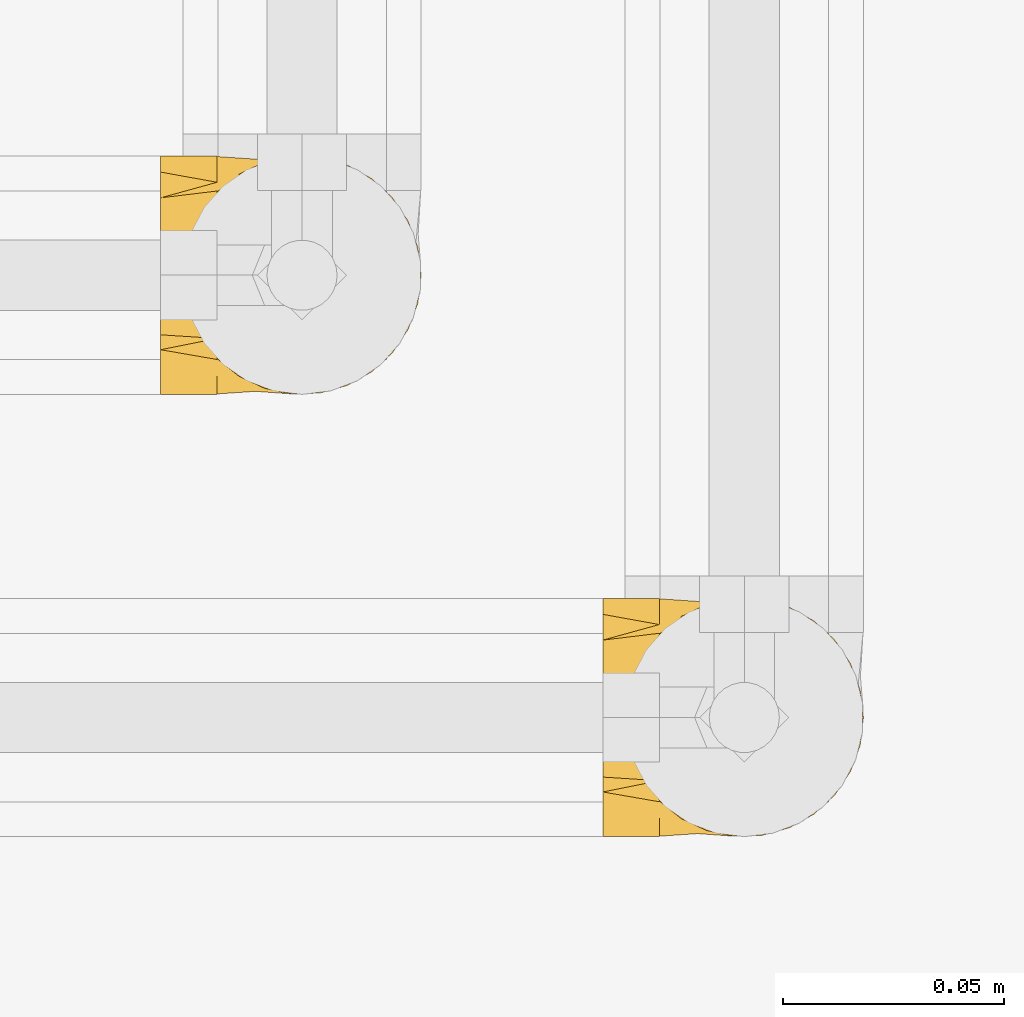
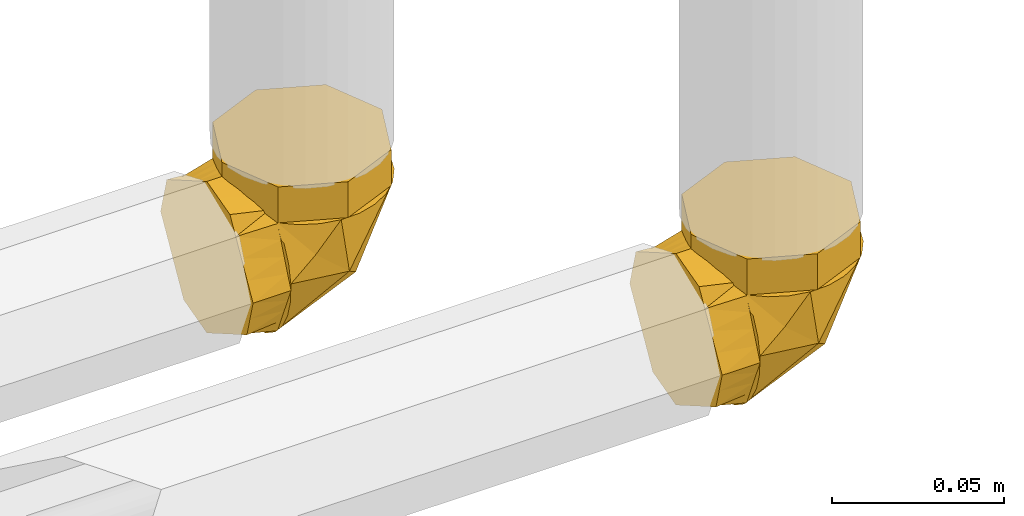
# One storey, part 348 of 652: 2 coverings.
"""IFC2X3 building model written with IfcOpenShell, lengths in millimetres."""

from ifc_helpers import new_model, entity, si_unit, converted_unit, direction, frame, origin, place, context, subcontext, project, spatial, face_set, surface_model, material, type_object, element, save


model = new_model("IFC2X3")

# Units and contexts
model_context = context("Model", 3, precision=0.01, world=frame((0.0, 0.0, 308426.39999999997)), true_north=direction((6.123233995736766e-17, 1.0)))
plan_context = context("Plan", 3, precision=0.01, world=frame((0.0, 0.0, 308426.39999999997)), true_north=direction((6.123233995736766e-17, 1.0)))
body_context = subcontext(model_context, "Body", "Model", "MODEL_VIEW")
ifc_project = project(units=[si_unit("LENGTHUNIT", "METRE", prefix="MILLI"), si_unit("AREAUNIT", "SQUARE_METRE"), si_unit("VOLUMEUNIT", "CUBIC_METRE"), converted_unit("PLANEANGLEUNIT", "DEGREE", entity("IfcPlaneAngleMeasure", 0.017453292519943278), si_unit("PLANEANGLEUNIT", "RADIAN"), dimensions=[0, 0, 0, 0, 0, 0, 0])], contexts=[model_context, plan_context])

# Site, building, storey
site_placement = place(None, origin())
site = spatial("IfcSite", under=ifc_project, at=site_placement, Name="Default", CompositionType="ELEMENT")
building_placement = place(site_placement, origin())
building = spatial("IfcBuilding", under=site, at=building_placement, CompositionType="ELEMENT")
storey_placement = place(building_placement, frame((0.0, 0.0, 1730.6999999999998)))
storey = spatial("IfcBuildingStorey", under=building, at=storey_placement, Name="EG_Produktion_FFB", CompositionType="ELEMENT", Elevation=1730.6999999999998)

# Coverings
ifc_material = material(Name="Dämmung - Armaflex-Schlauch")
covering_type = type_object("IfcCoveringType", Name="Rohrdämmung außen:Armaflex-Schlauch", PredefinedType="INSULATION")
covering_1_placement = place(storey_placement, frame((52268.01624999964, 31973.503785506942, 2671.4672277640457)))
element("IfcCovering", 1, at=covering_1_placement, inside=storey, type_object=covering_type, material=ifc_material, Name="Rohrdämmung außen:Armaflex-Schlauch", ObjectType="Rohrdämmung außen:Armaflex-Schlauch", PredefinedType="INSULATION", context=body_context, shape_type="SurfaceModel", body=[
    surface_model("IfcFaceBasedSurfaceModel", [(12.766249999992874, 9.65642195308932, 47.750272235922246), (17.724287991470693, 5.678961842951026, 47.750272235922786), (23.47627931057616, 2.973980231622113, 47.750272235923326), (29.70195853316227, 1.6920879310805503, 47.75027223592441), (36.054685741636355, 1.9046594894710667, 47.75027223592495), (42.1807471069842, 3.5998591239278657, 47.75027223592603), (47.7390493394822, 6.683299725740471, 47.75027223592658), (52.420111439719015, 10.983298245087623, 47.75027223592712), (55.963296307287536, 16.26043484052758, 47.75027223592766), (58.17132276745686, 22.220883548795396, 47.75027223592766), (58.921249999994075, 28.532772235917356, 47.75027223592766), (58.17132276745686, 34.84466092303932, 47.75027223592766), (55.963296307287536, 40.80510963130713, 47.75027223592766), (52.420111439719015, 46.08224622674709, 47.75027223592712), (47.7390493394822, 50.38224474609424, 47.75027223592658), (42.1807471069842, 53.46568534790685, 47.75027223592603), (36.054685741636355, 55.16088498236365, 47.75027223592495), (29.70195853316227, 55.37345654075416, 47.75027223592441), (23.47627931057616, 54.0915642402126, 47.750272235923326), (17.724287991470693, 51.38658262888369, 47.750272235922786), (12.766249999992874, 47.40912251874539, 47.750272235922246), (12.766249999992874, 51.38658262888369, 42.79223424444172), (12.766249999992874, 54.0915642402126, 37.04024292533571), (12.766249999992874, 55.37345654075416, 30.81456370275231), (12.766249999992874, 55.16088498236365, 24.46183649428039), (12.766249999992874, 53.46568534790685, 18.33577512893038), (12.766249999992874, 50.38224474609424, 12.777472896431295), (12.766250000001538, 46.08224622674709, 8.096410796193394), (12.766250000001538, 40.80510963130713, 4.553225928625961), (12.766250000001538, 34.84466092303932, 2.3451994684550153), (12.766250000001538, 28.532772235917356, 1.5952722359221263), (12.766250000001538, 22.220883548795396, 2.3451994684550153), (12.766250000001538, 16.26043484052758, 4.553225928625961), (12.766250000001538, 10.983298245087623, 8.096410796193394), (12.766249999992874, 6.683299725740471, 12.777472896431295), (12.766249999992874, 3.5998591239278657, 18.33577512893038), (12.766249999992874, 1.9046594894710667, 24.46183649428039), (12.766249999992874, 1.6920879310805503, 30.81456370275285), (12.766249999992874, 2.973980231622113, 37.04024292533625), (12.766249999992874, 5.678961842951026, 42.79223424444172), (21.447873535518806, 2.2770067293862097, 37.80740068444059), (52.73898681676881, 28.533543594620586, 24.67273729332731), (33.56341308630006, 3.600181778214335, 26.951086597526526), (41.06062988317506, 6.33722401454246, 47.75039842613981), (31.02868408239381, 28.533543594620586, 12.139781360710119), (41.84197753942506, 14.28557606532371, 17.332487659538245), (12.764682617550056, 6.33722401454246, 19.45561388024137), (41.84197753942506, 42.77918568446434, 17.332487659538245), (33.56341308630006, 53.46457997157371, 26.951086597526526), (21.447873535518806, 54.79008045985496, 37.80740068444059), (12.764682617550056, 50.72753773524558, 19.45561388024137), (41.06062988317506, 50.72753773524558, 47.75039842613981), (58.921250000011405, 28.532772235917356, 60.5165222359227), (56.948797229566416, 33.29469446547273, 60.51652223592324), (54.97634445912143, 38.05661669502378, 60.51652223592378), (53.00389168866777, 42.81853892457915, 60.51652223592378), (51.03143891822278, 47.5804611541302, 60.51652223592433), (46.26951668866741, 49.552913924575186, 60.51652223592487), (41.507594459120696, 51.5253666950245, 60.51652223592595), (36.74567222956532, 53.497819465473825, 60.51652223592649), (31.983750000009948, 55.47027223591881, 60.516522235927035), (27.22182777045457, 53.49781946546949, 60.516522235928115), (22.459905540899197, 51.5253666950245, 60.516522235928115), (17.697983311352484, 49.552913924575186, 60.516522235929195), (12.936061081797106, 47.5804611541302, 60.51652223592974), (10.963608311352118, 42.81853892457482, 60.51652223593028), (8.991155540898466, 38.05661669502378, 60.51652223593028), (7.018702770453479, 33.29469446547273, 60.51652223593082), (5.046250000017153, 28.532772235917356, 60.51652223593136), (7.018702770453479, 23.77085000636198, 60.51652223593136), (8.991155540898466, 19.008927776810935, 60.51652223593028), (10.963608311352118, 14.247005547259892, 60.51652223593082), (12.936061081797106, 9.485083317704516, 60.51652223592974), (17.697983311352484, 7.512630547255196, 60.516522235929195), (22.459905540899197, 5.540177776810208, 60.516522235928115), (27.22182777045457, 3.5677250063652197, 60.516522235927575), (31.983750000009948, 1.5952722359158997, 60.516522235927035), (36.74567222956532, 3.567725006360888, 60.51652223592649), (41.507594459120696, 5.540177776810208, 60.51652223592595), (46.26951668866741, 7.512630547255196, 60.51652223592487), (51.03143891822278, 9.485083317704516, 60.51652223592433), (53.00389168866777, 14.247005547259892, 60.51652223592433), (54.97634445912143, 19.008927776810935, 60.51652223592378), (56.948797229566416, 23.77085000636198, 60.5165222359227), (58.92125000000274, 28.532772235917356, 47.75027223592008), (56.948797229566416, 23.77085000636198, 47.750272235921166), (54.97634445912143, 19.008927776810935, 47.750272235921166), (53.00389168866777, 14.24700554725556, 47.750272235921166), (51.03143891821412, 9.485083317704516, 47.750272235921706), (45.26304951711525, 7.095738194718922, 47.750272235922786), (39.49466011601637, 4.706393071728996, 47.750272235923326), (31.983750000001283, 1.5952722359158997, 47.75027223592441), (27.22182777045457, 3.5677250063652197, 47.75027223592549), (22.459905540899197, 5.540177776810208, 47.75027223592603), (17.69798331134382, 7.512630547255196, 47.75027223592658), (12.936061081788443, 9.485083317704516, 47.75027223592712), (10.546715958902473, 15.253472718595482, 47.75027223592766), (8.157370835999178, 21.021862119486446, 47.75027223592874), (5.046250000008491, 28.532772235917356, 47.75027223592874), (7.018702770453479, 33.2946944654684, 47.75027223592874), (8.991155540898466, 38.05661669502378, 47.7502722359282), (10.963608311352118, 42.81853892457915, 47.75027223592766), (12.936061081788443, 47.5804611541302, 47.75027223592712), (18.704450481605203, 49.96980627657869, 47.75027223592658), (24.472839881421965, 52.35915139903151, 47.75027223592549), (31.983750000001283, 55.47027223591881, 47.75027223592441), (36.74567222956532, 53.49781946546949, 47.75027223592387), (41.507594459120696, 51.5253666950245, 47.750272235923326), (46.26951668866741, 49.552913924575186, 47.750272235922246), (51.03143891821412, 47.5804611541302, 47.750272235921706), (53.420784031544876, 41.81207177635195, 47.750272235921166), (55.810129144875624, 36.0436823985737, 47.750272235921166), (0.0, 28.532772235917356, 1.5952722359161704), (0.0, 22.700632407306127, 4.962459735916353), (0.0, 16.868492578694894, 8.329647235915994), (0.0, 11.036352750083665, 11.696834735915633), (0.0, 5.204212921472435, 15.064022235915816), (0.0, 3.3997425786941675, 21.798397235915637), (0.0, 1.5952722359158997, 28.532772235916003), (0.0, 4.962459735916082, 34.36491206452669), (0.0, 8.329647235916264, 40.19705189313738), (0.0, 11.696834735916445, 46.02919172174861), (0.0, 15.064022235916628, 51.861331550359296), (0.0, 21.79839723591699, 53.66580189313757), (0.0, 28.532772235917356, 55.470272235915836), (0.0, 34.364912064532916, 52.10308473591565), (0.0, 40.197051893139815, 48.73589723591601), (0.0, 46.029191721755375, 45.36870973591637), (0.0, 51.86133155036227, 42.00152223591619), (0.0, 53.66580189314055, 35.26714723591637), (0.0, 55.47027223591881, 28.532772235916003), (0.0, 52.1030847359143, 22.700632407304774), (0.0, 48.73589723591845, 16.868492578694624), (0.0, 45.3687097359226, 11.036352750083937), (0.0, 42.00152223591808, 5.204212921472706), (0.0, 35.26714723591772, 3.3997425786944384), (12.766250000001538, 28.532772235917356, 1.5952722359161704), (12.766250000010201, 33.29469446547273, 3.567725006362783), (12.766250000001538, 38.05661669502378, 5.540177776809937), (12.766250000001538, 42.81853892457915, 7.512630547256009), (12.766250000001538, 47.5804611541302, 9.485083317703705), (12.766250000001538, 49.552913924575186, 14.247005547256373), (12.766250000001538, 51.5253666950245, 19.008927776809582), (12.766250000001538, 53.497819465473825, 23.770850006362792), (12.766250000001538, 55.47027223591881, 28.532772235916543), (12.766250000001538, 53.497819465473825, 33.29469446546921), (12.766250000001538, 51.5253666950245, 38.05661669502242), (12.766250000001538, 49.552913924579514, 42.818538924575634), (12.766250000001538, 47.5804611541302, 47.58046115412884), (12.766250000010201, 42.81853892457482, 49.552913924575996), (12.766250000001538, 38.05661669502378, 51.525366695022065), (12.766250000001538, 33.29469446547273, 53.49781946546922), (12.766250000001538, 28.532772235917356, 55.470272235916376), (12.766250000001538, 23.770850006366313, 53.49781946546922), (12.766250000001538, 19.008927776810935, 51.525366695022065), (12.766250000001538, 14.24700554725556, 49.552913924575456), (12.766250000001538, 9.485083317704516, 47.58046115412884), (12.766250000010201, 7.512630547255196, 42.818538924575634), (12.766250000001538, 5.540177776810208, 38.05661669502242), (12.766250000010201, 3.5677250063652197, 33.29469446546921), (12.766250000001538, 1.5952722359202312, 28.532772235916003), (12.766250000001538, 3.5677250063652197, 23.770850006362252), (12.766250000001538, 5.540177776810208, 19.008927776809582), (12.766250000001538, 7.512630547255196, 14.247005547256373), (12.766250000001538, 9.485083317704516, 9.485083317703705), (12.766250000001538, 14.247005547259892, 7.51263054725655), (12.766250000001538, 19.008927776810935, 5.540177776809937), (12.766250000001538, 23.77085000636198, 3.567725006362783)], [face_set([[[0, 1, 2, 3, 4, 5, 6, 7, 8, 9, 10, 11, 12, 13, 14, 15, 16, 17, 18, 19]], [[20, 21, 22, 23, 24, 25, 26, 27, 28, 29, 30, 31, 32, 33, 34, 35, 36, 37, 38, 39]], [[0, 40, 3]], [[10, 7, 41]], [[37, 42, 40]], [[42, 7, 43, 3]], [[37, 40, 0]], [[3, 40, 42]], [[44, 41, 45]], [[7, 45, 41]], [[33, 30, 44]], [[44, 45, 33]], [[42, 33, 45]], [[42, 37, 46]], [[7, 42, 45]], [[46, 33, 42]], [[13, 10, 41]], [[27, 47, 44]], [[44, 30, 27]], [[48, 47, 27]], [[49, 48, 23]], [[48, 50, 23]], [[44, 47, 41]], [[20, 49, 23]], [[47, 48, 13]], [[17, 49, 20]], [[41, 47, 13]], [[48, 17, 51, 13]], [[48, 27, 50]], [[17, 48, 49]]]), face_set([[[52, 53, 54, 55, 56, 57, 58, 59, 60, 61, 62, 63, 64, 65, 66, 67, 68, 69, 70, 71, 72, 73, 74, 75, 76, 77, 78, 79, 80, 81, 82, 83]], [[84, 85, 86, 87, 88, 89, 90, 91, 92, 93, 94, 95, 96, 97, 98, 99, 100, 101, 102, 103, 104, 105, 106, 107, 108, 109, 110, 111]], [[111, 110, 109, 56, 55, 54, 53, 52, 84]], [[56, 109, 108, 107, 106, 105, 60, 59, 58, 57]], [[104, 103, 102, 64, 63, 62, 61, 60, 105]], [[64, 102, 101, 100, 99, 98, 68, 67, 66, 65]], [[97, 96, 95, 72, 71, 70, 69, 68, 98]], [[72, 95, 94, 93, 92, 91, 76, 75, 74, 73]], [[90, 89, 88, 80, 79, 78, 77, 76, 91]], [[80, 88, 87, 86, 85, 84, 52, 83, 82, 81]]]), face_set([[[112, 113, 114, 115, 116, 117, 118, 119, 120, 121, 122, 123, 124, 125, 126, 127, 128, 129, 130, 131, 132, 133, 134, 135]], [[136, 137, 138, 139, 140, 141, 142, 143, 144, 145, 146, 147, 148, 149, 150, 151, 152, 153, 154, 155, 156, 157, 158, 159, 160, 161, 162, 163, 164, 165, 166, 167]], [[155, 121, 156]], [[118, 159, 119]], [[159, 158, 119]], [[123, 154, 153]], [[153, 152, 124]], [[121, 155, 122]], [[120, 158, 157]], [[118, 160, 159]], [[158, 120, 119]], [[124, 123, 153]], [[157, 156, 121]], [[155, 154, 122]], [[123, 122, 154]], [[120, 157, 121]], [[163, 115, 164]], [[112, 167, 113]], [[167, 166, 113]], [[117, 162, 161]], [[161, 160, 118]], [[115, 163, 116]], [[114, 166, 165]], [[112, 136, 167]], [[166, 114, 113]], [[118, 117, 161]], [[165, 164, 115]], [[163, 162, 116]], [[117, 116, 162]], [[114, 165, 115]], [[139, 133, 140]], [[130, 143, 131]], [[143, 142, 131]], [[135, 138, 137]], [[137, 136, 112]], [[133, 139, 134]], [[132, 142, 141]], [[130, 144, 143]], [[142, 132, 131]], [[112, 135, 137]], [[141, 140, 133]], [[139, 138, 134]], [[135, 134, 138]], [[132, 141, 133]], [[147, 127, 148]], [[124, 151, 125]], [[151, 150, 125]], [[129, 146, 145]], [[145, 144, 130]], [[127, 147, 128]], [[126, 150, 149]], [[124, 152, 151]], [[150, 126, 125]], [[130, 129, 145]], [[149, 148, 127]], [[147, 146, 128]], [[129, 128, 146]], [[126, 149, 127]]])]),
])
covering_2_placement = place(storey_placement, frame((52368.016249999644, 31873.50378550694, 2671.46722776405)))
element("IfcCovering", 2, at=covering_2_placement, inside=storey, type_object=covering_type, material=ifc_material, Name="Rohrdämmung außen:Armaflex-Schlauch", ObjectType="Rohrdämmung außen:Armaflex-Schlauch", PredefinedType="INSULATION", context=body_context, shape_type="SurfaceModel", body=[
    surface_model("IfcFaceBasedSurfaceModel", [(12.766249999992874, 9.65642195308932, 47.750272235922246), (17.724287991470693, 5.678961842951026, 47.750272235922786), (23.47627931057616, 2.973980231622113, 47.750272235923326), (29.70195853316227, 1.6920879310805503, 47.75027223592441), (36.054685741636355, 1.9046594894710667, 47.75027223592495), (42.1807471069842, 3.5998591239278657, 47.75027223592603), (47.7390493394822, 6.683299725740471, 47.75027223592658), (52.420111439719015, 10.983298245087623, 47.75027223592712), (55.963296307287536, 16.26043484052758, 47.75027223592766), (58.17132276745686, 22.220883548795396, 47.75027223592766), (58.921249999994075, 28.532772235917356, 47.75027223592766), (58.17132276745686, 34.84466092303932, 47.75027223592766), (55.963296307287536, 40.80510963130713, 47.75027223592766), (52.420111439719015, 46.08224622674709, 47.75027223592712), (47.7390493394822, 50.38224474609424, 47.75027223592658), (42.1807471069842, 53.46568534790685, 47.75027223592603), (36.054685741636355, 55.16088498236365, 47.75027223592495), (29.70195853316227, 55.37345654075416, 47.75027223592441), (23.47627931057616, 54.0915642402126, 47.750272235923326), (17.724287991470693, 51.38658262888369, 47.750272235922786), (12.766249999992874, 47.40912251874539, 47.750272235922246), (12.766249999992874, 51.38658262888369, 42.79223424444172), (12.766249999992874, 54.0915642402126, 37.04024292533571), (12.766249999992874, 55.37345654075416, 30.81456370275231), (12.766249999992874, 55.16088498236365, 24.46183649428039), (12.766249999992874, 53.46568534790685, 18.33577512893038), (12.766249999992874, 50.38224474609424, 12.777472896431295), (12.766250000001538, 46.08224622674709, 8.096410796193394), (12.766250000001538, 40.80510963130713, 4.553225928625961), (12.766250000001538, 34.84466092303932, 2.3451994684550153), (12.766250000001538, 28.532772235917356, 1.5952722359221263), (12.766250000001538, 22.220883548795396, 2.3451994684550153), (12.766250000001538, 16.26043484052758, 4.553225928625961), (12.766250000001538, 10.983298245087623, 8.096410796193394), (12.766249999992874, 6.683299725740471, 12.777472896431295), (12.766249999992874, 3.5998591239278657, 18.33577512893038), (12.766249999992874, 1.9046594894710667, 24.46183649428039), (12.766249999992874, 1.6920879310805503, 30.81456370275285), (12.766249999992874, 2.973980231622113, 37.04024292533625), (12.766249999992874, 5.678961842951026, 42.79223424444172), (21.446420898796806, 2.276133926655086, 37.80740068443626), (52.73753418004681, 28.532670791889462, 24.672737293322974), (33.566611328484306, 3.5993089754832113, 26.951086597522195), (41.059177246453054, 6.3386766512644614, 47.750398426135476), (31.031882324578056, 28.532670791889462, 12.139781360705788), (41.84052490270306, 14.284703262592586, 17.332487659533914), (12.767880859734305, 6.3386766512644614, 19.45561388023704), (41.84052490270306, 42.78063832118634, 17.332487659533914), (33.566611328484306, 53.46603260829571, 26.951086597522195), (21.446420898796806, 54.78920765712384, 37.80740068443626), (12.767880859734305, 50.72899037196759, 19.45561388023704), (41.059177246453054, 50.72899037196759, 47.750398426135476), (58.921250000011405, 28.532772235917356, 60.5165222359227), (56.94879722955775, 33.2946944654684, 60.51652223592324), (54.97634445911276, 38.05661669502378, 60.51652223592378), (53.00389168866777, 42.81853892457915, 60.51652223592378), (51.03143891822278, 47.5804611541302, 60.51652223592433), (46.26951668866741, 49.552913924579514, 60.51652223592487), (41.507594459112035, 51.5253666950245, 60.51652223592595), (36.74567222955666, 53.49781946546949, 60.51652223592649), (31.983750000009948, 55.47027223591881, 60.516522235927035), (27.221827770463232, 53.49781946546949, 60.516522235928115), (22.459905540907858, 51.5253666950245, 60.516522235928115), (17.697983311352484, 49.552913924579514, 60.516522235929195), (12.936061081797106, 47.5804611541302, 60.51652223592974), (10.963608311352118, 42.81853892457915, 60.51652223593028), (8.99115554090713, 38.05661669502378, 60.51652223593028), (7.018702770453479, 33.2946944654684, 60.51652223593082), (5.046250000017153, 28.532772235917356, 60.51652223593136), (7.018702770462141, 23.770850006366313, 60.51652223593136), (8.99115554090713, 19.008927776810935, 60.51652223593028), (10.963608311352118, 14.24700554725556, 60.51652223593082), (12.936061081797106, 9.485083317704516, 60.51652223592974), (17.697983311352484, 7.512630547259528, 60.516522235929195), (22.459905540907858, 5.540177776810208, 60.516522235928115), (27.22182777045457, 3.567725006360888, 60.516522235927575), (31.983750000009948, 1.5952722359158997, 60.516522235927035), (36.74567222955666, 3.5677250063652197, 60.51652223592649), (41.507594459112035, 5.540177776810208, 60.51652223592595), (46.26951668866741, 7.512630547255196, 60.51652223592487), (51.03143891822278, 9.485083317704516, 60.51652223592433), (53.00389168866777, 14.24700554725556, 60.51652223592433), (54.97634445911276, 19.008927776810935, 60.51652223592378), (56.94879722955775, 23.770850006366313, 60.5165222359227), (58.92125000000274, 28.532772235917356, 47.75027223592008), (56.94879722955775, 23.770850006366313, 47.750272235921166), (54.97634445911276, 19.008927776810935, 47.750272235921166), (53.00389168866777, 14.24700554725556, 47.750272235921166), (51.03143891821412, 9.485083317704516, 47.750272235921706), (45.26304951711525, 7.095738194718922, 47.750272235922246), (39.49466011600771, 4.706393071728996, 47.750272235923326), (31.983750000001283, 1.5952722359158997, 47.75027223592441), (27.22182777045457, 3.5677250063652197, 47.75027223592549), (22.459905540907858, 5.540177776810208, 47.75027223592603), (17.697983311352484, 7.512630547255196, 47.75027223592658), (12.936061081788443, 9.485083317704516, 47.75027223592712), (10.546715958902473, 15.253472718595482, 47.7502722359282), (8.157370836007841, 21.021862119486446, 47.7502722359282), (5.046250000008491, 28.532772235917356, 47.75027223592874), (7.018702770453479, 33.29469446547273, 47.75027223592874), (8.99115554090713, 38.05661669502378, 47.7502722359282), (10.963608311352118, 42.81853892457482, 47.75027223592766), (12.936061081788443, 47.5804611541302, 47.75027223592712), (18.704450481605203, 49.96980627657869, 47.75027223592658), (24.472839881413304, 52.35915139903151, 47.75027223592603), (31.983750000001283, 55.47027223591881, 47.75027223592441), (36.74567222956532, 53.49781946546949, 47.75027223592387), (41.507594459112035, 51.5253666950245, 47.750272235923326), (46.26951668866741, 49.552913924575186, 47.750272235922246), (51.03143891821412, 47.5804611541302, 47.750272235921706), (53.420784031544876, 41.81207177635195, 47.750272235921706), (55.81012914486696, 36.0436823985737, 47.750272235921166), (0.0, 28.532772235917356, 1.5952722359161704), (0.0, 22.700632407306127, 4.962459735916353), (0.0, 16.868492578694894, 8.329647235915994), (0.0, 11.036352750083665, 11.696834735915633), (0.0, 5.204212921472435, 15.064022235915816), (0.0, 3.3997425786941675, 21.798397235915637), (0.0, 1.5952722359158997, 28.532772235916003), (0.0, 4.9624597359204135, 34.36491206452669), (0.0, 8.329647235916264, 40.19705189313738), (0.0, 11.696834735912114, 46.02919172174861), (0.0, 15.064022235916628, 51.861331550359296), (0.0, 21.79839723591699, 53.66580189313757), (0.0, 28.532772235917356, 55.470272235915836), (0.0, 34.36491206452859, 52.10308473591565), (0.0, 40.197051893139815, 48.73589723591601), (0.0, 46.02919172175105, 45.36870973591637), (0.0, 51.86133155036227, 42.00152223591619), (0.0, 53.66580189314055, 35.26714723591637), (0.0, 55.47027223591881, 28.532772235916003), (0.0, 52.10308473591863, 22.700632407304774), (0.0, 48.73589723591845, 16.868492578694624), (0.0, 45.368709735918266, 11.036352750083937), (0.0, 42.00152223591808, 5.204212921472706), (0.0, 35.26714723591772, 3.3997425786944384), (12.766250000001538, 28.532772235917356, 1.5952722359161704), (12.766250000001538, 33.2946944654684, 3.567725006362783), (12.766250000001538, 38.05661669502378, 5.540177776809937), (12.766250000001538, 42.81853892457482, 7.512630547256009), (12.766250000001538, 47.5804611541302, 9.485083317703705), (12.766250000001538, 49.552913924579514, 14.247005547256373), (12.766250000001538, 51.5253666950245, 19.008927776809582), (12.766250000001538, 53.49781946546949, 23.770850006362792), (12.766250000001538, 55.47027223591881, 28.532772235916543), (12.766250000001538, 53.49781946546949, 33.29469446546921), (12.766250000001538, 51.5253666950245, 38.05661669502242), (12.766250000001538, 49.552913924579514, 42.818538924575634), (12.766250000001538, 47.5804611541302, 47.58046115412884), (12.766250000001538, 42.81853892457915, 49.552913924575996), (12.766250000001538, 38.05661669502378, 51.525366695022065), (12.766250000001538, 33.2946944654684, 53.49781946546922), (12.766250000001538, 28.532772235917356, 55.470272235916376), (12.766250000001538, 23.77085000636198, 53.49781946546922), (12.766250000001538, 19.008927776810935, 51.525366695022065), (12.766250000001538, 14.247005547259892, 49.552913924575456), (12.766250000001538, 9.485083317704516, 47.58046115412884), (12.766250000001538, 7.512630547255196, 42.818538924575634), (12.766250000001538, 5.540177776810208, 38.05661669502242), (12.766250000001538, 3.5677250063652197, 33.29469446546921), (12.766250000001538, 1.5952722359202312, 28.532772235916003), (12.766250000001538, 3.5677250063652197, 23.770850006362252), (12.766250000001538, 5.540177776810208, 19.008927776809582), (12.766250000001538, 7.512630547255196, 14.247005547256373), (12.766250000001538, 9.485083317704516, 9.485083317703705), (12.766250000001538, 14.24700554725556, 7.51263054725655), (12.766250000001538, 19.008927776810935, 5.540177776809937), (12.766250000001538, 23.770850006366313, 3.567725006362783)], [face_set([[[0, 1, 2, 3, 4, 5, 6, 7, 8, 9, 10, 11, 12, 13, 14, 15, 16, 17, 18, 19]], [[20, 21, 22, 23, 24, 25, 26, 27, 28, 29, 30, 31, 32, 33, 34, 35, 36, 37, 38, 39]], [[0, 40, 3]], [[10, 7, 41]], [[37, 42, 40]], [[42, 7, 43]], [[37, 40, 0]], [[3, 40, 42]], [[44, 41, 45]], [[7, 45, 41]], [[33, 30, 44]], [[44, 45, 33]], [[42, 33, 45]], [[42, 37, 46]], [[7, 42, 45]], [[43, 3, 42]], [[46, 33, 42]], [[13, 10, 41]], [[27, 47, 44]], [[44, 30, 27]], [[48, 47, 27]], [[49, 48, 23]], [[48, 50, 23]], [[44, 47, 41]], [[20, 49, 23]], [[47, 48, 13]], [[17, 49, 20]], [[41, 47, 13]], [[48, 17, 51]], [[48, 27, 50]], [[17, 48, 49]], [[51, 13, 48]]]), face_set([[[52, 53, 54, 55, 56, 57, 58, 59, 60, 61, 62, 63, 64, 65, 66, 67, 68, 69, 70, 71, 72, 73, 74, 75, 76, 77, 78, 79, 80, 81, 82, 83]], [[84, 85, 86, 87, 88, 89, 90, 91, 92, 93, 94, 95, 96, 97, 98, 99, 100, 101, 102, 103, 104, 105, 106, 107, 108, 109, 110, 111]], [[111, 110, 109, 56, 55, 54, 53, 52, 84]], [[56, 109, 108, 107, 106, 105, 60, 59, 58, 57]], [[104, 103, 102, 64, 63, 62, 61, 60, 105]], [[64, 102, 101, 100, 99, 98, 68, 67, 66, 65]], [[97, 96, 95, 72, 71, 70, 69, 68, 98]], [[72, 95, 94, 93, 92, 91, 76, 75, 74, 73]], [[90, 89, 88, 80, 79, 78, 77, 76, 91]], [[80, 88, 87, 86, 85, 84, 52, 83, 82, 81]]]), face_set([[[112, 113, 114, 115, 116, 117, 118, 119, 120, 121, 122, 123, 124, 125, 126, 127, 128, 129, 130, 131, 132, 133, 134, 135]], [[136, 137, 138, 139, 140, 141, 142, 143, 144, 145, 146, 147, 148, 149, 150, 151, 152, 153, 154, 155, 156, 157, 158, 159, 160, 161, 162, 163, 164, 165, 166, 167]], [[155, 121, 156]], [[118, 159, 119]], [[159, 158, 119]], [[123, 154, 153]], [[153, 152, 124]], [[121, 155, 122]], [[120, 158, 157]], [[118, 160, 159]], [[158, 120, 119]], [[124, 123, 153]], [[157, 156, 121]], [[155, 154, 122]], [[123, 122, 154]], [[120, 157, 121]], [[163, 115, 164]], [[112, 167, 113]], [[167, 166, 113]], [[117, 162, 161]], [[161, 160, 118]], [[115, 163, 116]], [[114, 166, 165]], [[112, 136, 167]], [[166, 114, 113]], [[118, 117, 161]], [[165, 164, 115]], [[163, 162, 116]], [[117, 116, 162]], [[114, 165, 115]], [[139, 133, 140]], [[130, 143, 131]], [[143, 142, 131]], [[135, 138, 137]], [[137, 136, 112]], [[133, 139, 134]], [[132, 142, 141]], [[130, 144, 143]], [[142, 132, 131]], [[112, 135, 137]], [[141, 140, 133]], [[139, 138, 134]], [[135, 134, 138]], [[132, 141, 133]], [[147, 127, 148]], [[124, 151, 125]], [[151, 150, 125]], [[129, 146, 145]], [[145, 144, 130]], [[127, 147, 128]], [[126, 150, 149]], [[124, 152, 151]], [[150, 126, 125]], [[130, 129, 145]], [[149, 148, 127]], [[147, 146, 128]], [[129, 128, 146]], [[126, 149, 127]]])]),
])

save(model, "model.ifc")
